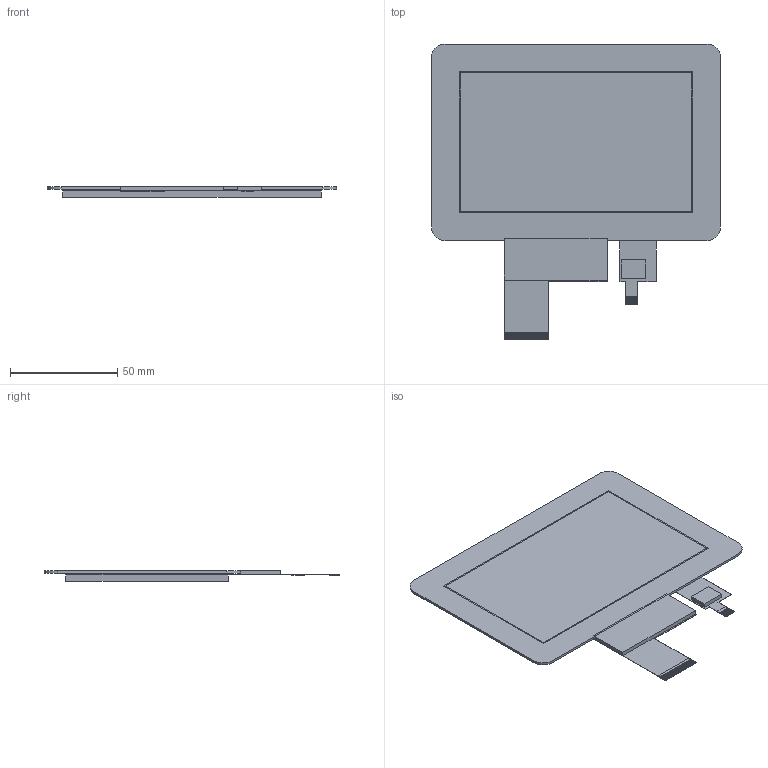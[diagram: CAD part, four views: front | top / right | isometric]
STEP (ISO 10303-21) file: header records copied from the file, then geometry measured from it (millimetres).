
FILE_DESCRIPTION (( 'STEP AP214' ), '1' );
FILE_NAME ('CFAF800480E3-050SW drawing.STEP', '2024-08-28T22:30:20', ( '' ), ( '' ), 'SwSTEP 2.0', 'SolidWorks 2021', '' );
FILE_SCHEMA (( 'AUTOMOTIVE_DESIGN' ));
Length unit declared in the file: millimetre
Products named in the file (1): CFAF800480E3-050SW drawing
Bounding box: 135 x 138.24 x 4.95 mm (x, y, z)
Volume: 50724.7 mm3; surface area: 70458.2 mm2
Topology: 59 solids, 59 shells, 372 faces, 764 edges, 512 vertices
Faces by surface type: plane 368, cylinder 4
Entity records: 13984 total; most frequent: CARTESIAN_POINT 1649, ORIENTED_EDGE 1528, DIRECTION 1518, EDGE_CURVE 764, VECTOR 756, LINE 756, VERTEX_POINT 512, UNCERTAINTY_MEASURE_WITH_UNIT 409
